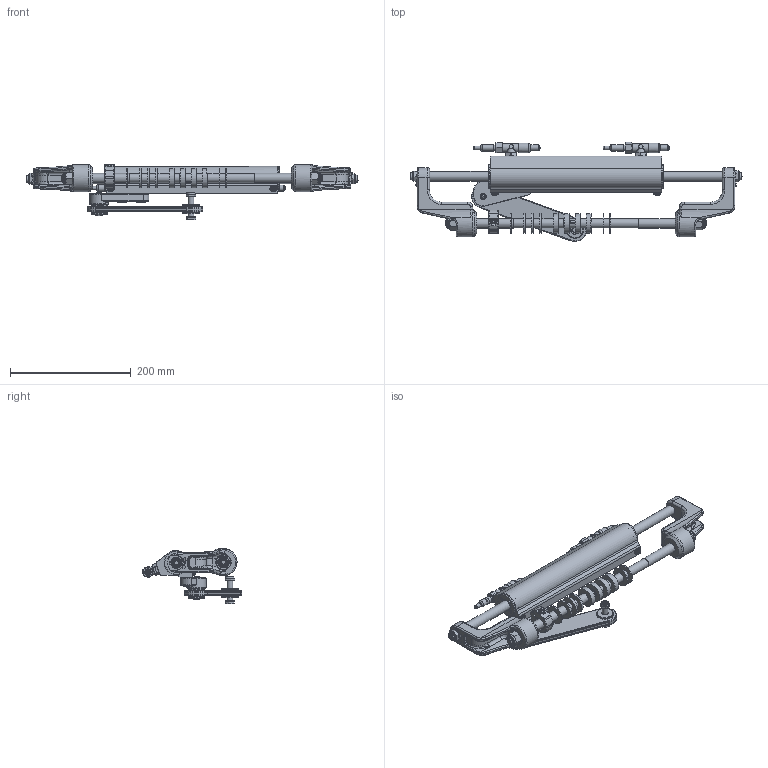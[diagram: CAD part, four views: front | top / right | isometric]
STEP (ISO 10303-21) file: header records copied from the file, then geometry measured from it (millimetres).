
FILE_DESCRIPTION(/* description */ (''),/* implementation_level */ '2;1');
FILE_NAME(/* name */ 'C:\Users\a.milanese\Desktop\Temporanea\UC95-1.stp',/* time_stamp */ '2020-08-26T11:41:28+02:00',/* author */ ('a.milanese'),/* organization */ (''),/* preprocessor_version */ 'ST-DEVELOPER v18',/* originating_system */ 'Autodesk Inventor 2020',/* authorisation */ '');
FILE_SCHEMA (('CONFIG_CONTROL_DESIGN'));
Length unit declared in the file: millimetre
Products named in the file (40): Assieme1; 35062; 35063; 35064; 25107; 18820; 22588; 18823; 22311 ; 22311 RACCORDO ORIENTABILE ULTRAFLEX; 22311c RONDELLA per raccordo orientabile Ultraflex; 22311c O-RING per raccordo orientabile Ultraflex; 22311c DADO per raccordo orientabile Ultraflex; 33099; 30738 ; 30742 ; 30741; 20720; 24638; 18134; 18135; 18136; 18982; 20847; 21339; 21338; 30737 ; 30770; 30739; 29766; 809; 18129; 18137; 35071; 30261; 30260 ; 31042; 29985; 29183; 30262
Assembly tree (63 placements, depth 3):
  Assieme1
    35062
    35063
    35064  x2
    25107  x2
    18820  x2
    22588  x2
    18823  x2
    22311   x2
      22311 RACCORDO ORIENTABILE ULTRAFLEX
      22311c RONDELLA per raccordo orientabile Ultraflex
      22311c O-RING per raccordo orientabile Ultraflex
      22311c DADO per raccordo orientabile Ultraflex
    33099  x2
    30738 
    30742 
    30741
    20720  x2
    18137  x2
    18129  x2
    24638
    18134  x2
    18135  x4
    18136  x3
    18982
    20847
    21339
    21338
    30737   x2
    30770  x2
    30739  x2
    29766
    809
    35071  x2
    30261
    29183  x4
    30260 
    31042
    29985
    30262  x2
Bounding box: 551 x 164.94 x 91.48 mm (x, y, z)
Volume: 1009339.6 mm3; surface area: 328971.8 mm2
Topology: 65 solids, 65 shells, 1803 faces, 4597 edges, 2982 vertices
Faces by surface type: cylinder 524, plane 443, cone 360, torus 307, bspline 163, sphere 6
Full cylindrical faces by diameter (mm): 1.5 x4, 3.2 x2, 4.089 x1, 4.8 x2, 4.826 x2, 4.9 x10, 5.1 x1, 5.2 x2, 5.5 x4, 6 x3, 6.2 x1, 6.35 x4, 6.7 x2, 7 x2, 7.2 x4, 7.9 x1, 7.925 x1, 8 x6, 8.05 x2, 8.2 x2, 8.376 x2, 8.611 x1, 8.647 x1, 8.8 x4, 9.188 x2, 9.4 x2, 9.5 x7, 9.525 x1, 9.6 x2, 9.728 x4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
Entity records: 42629 total; most frequent: CARTESIAN_POINT 11848, DIRECTION 6671, ORIENTED_EDGE 5968, EDGE_CURVE 2984, AXIS2_PLACEMENT_3D 2944, VERTEX_POINT 1952, CIRCLE 1705, EDGE_LOOP 1334
